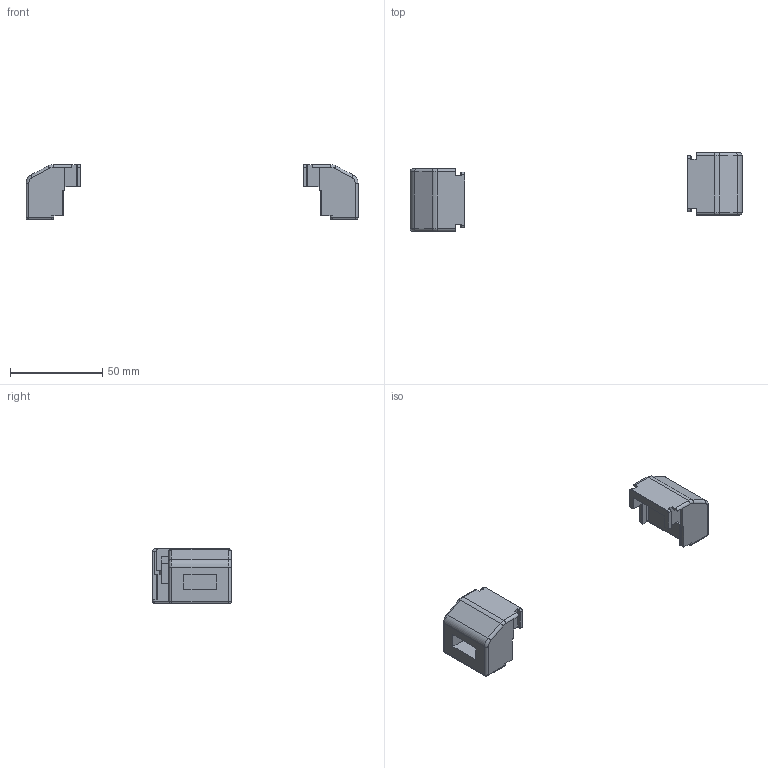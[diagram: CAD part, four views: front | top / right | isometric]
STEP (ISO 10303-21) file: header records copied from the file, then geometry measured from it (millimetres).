
FILE_DESCRIPTION((''),'2;1');
FILE_NAME('DEWI_SR-MINI_DMEC-ASSY_150','2015-12-16T',('emanuel.wild'),(''),'PRO/ENGINEER BY PARAMETRIC TECHNOLOGY CORPORATION, 2015200','PRO/ENGINEER BY PARAMETRIC TECHNOLOGY CORPORATION, 2015200','');
FILE_SCHEMA(('AUTOMOTIVE_DESIGN { 1 0 10303 214 1 1 1 1 }'));
Length unit declared in the file: millimetre
Products named in the file (2): DEWI_SR-MINI_DMEC; DEWI_SR-MINI_DMEC-ASSY_150
Assembly tree (2 placements, depth 2):
  DEWI_SR-MINI_DMEC-ASSY_150
    DEWI_SR-MINI_DMEC  x2
Bounding box: 180 x 42.6 x 29.8 mm (x, y, z)
Volume: 25339.5 mm3; surface area: 13623 mm2
Topology: 2 solids, 2 shells, 202 faces, 528 edges, 332 vertices
Faces by surface type: plane 120, cylinder 58, torus 16, bspline 4, sphere 4
Entity records: 3792 total; most frequent: CARTESIAN_POINT 570, DIRECTION 538, ORIENTED_EDGE 528, EDGE_CURVE 264, VECTOR 196, LINE 196, AXIS2_PLACEMENT_3D 171, VERTEX_POINT 166
